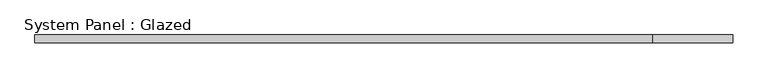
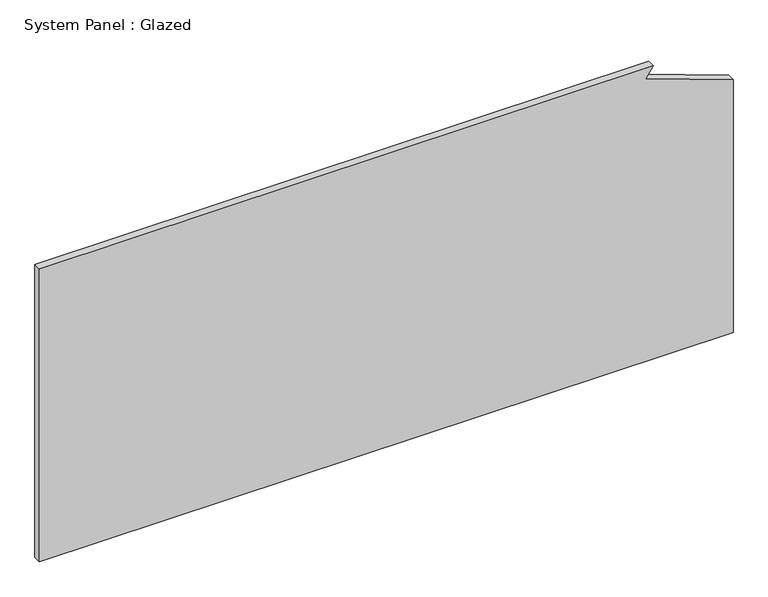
"""IFC4 building model written with IfcOpenShell, lengths in millimetres: plate geometry, System Panel : Glazed."""

from ifc_helpers import new_model, si_unit, frame, origin, place, context, project, spatial, polyline, outline, extrude, source, transform, mapped, element, save


def system_panel_glazed_03d16a12(model_context):
    return source(origin(), model_context, "Body", "SweptSolid", [
        extrude(outline(polyline([(0.0, -1122.380364), (0.0, 1122.380364), (864.7642957, 1122.380364), (966.8388873, 839.7325935), (1003.3, 864.3661558), (1003.3, -1122.380364), (0.0, -1122.380364)])), frame((0.0, 19.05, 0.0), z_axis=(0.0, 1.0, 0.0), x_axis=(0.0, 0.0, 1.0)), (0.0, 0.0, 1.0), 25.4),
    ])


if __name__ == "__main__":
    model = new_model("IFC4")
    model_context = context("Model", 3, world=origin())
    ifc_project = project(units=[si_unit("LENGTHUNIT", "METRE", prefix="MILLI")], contexts=[model_context])
    site = spatial("IfcSite", under=ifc_project)
    building = spatial("IfcBuilding", under=site)
    placement = place(None, origin())
    system_panel_glazed_shape = system_panel_glazed_03d16a12(model_context)
    element("IfcPlate", 1, ObjectType="System Panel : Glazed", at=placement, inside=building, context=model_context, shape_type="MappedRepresentation", body=[
        mapped(system_panel_glazed_shape, transform((0.0, 0.0, 0.0), x_axis=(1.0, 0.0, 0.0), y_axis=(0.0, 1.0, 0.0), z_axis=(0.0, 0.0, 1.0))),
    ])
    save(model, "model.ifc")
